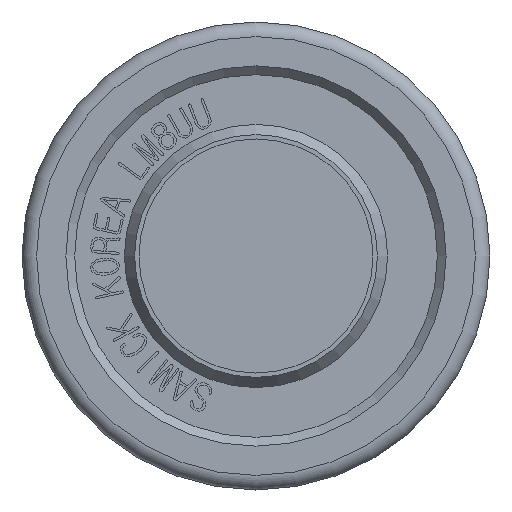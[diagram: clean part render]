
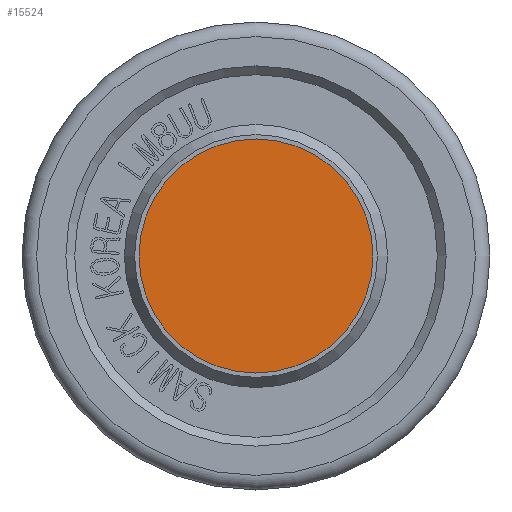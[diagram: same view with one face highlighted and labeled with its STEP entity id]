
A CAD part, front view. The second image highlights one B-rep face of the part: STEP entity #15524.
In plain terms, the highlighted planar face has unit normal (0, -1, 0).
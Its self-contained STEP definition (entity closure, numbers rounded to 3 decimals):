
#429=CIRCLE('',#15789,4.);
#1893=FACE_OUTER_BOUND('',#2752,.T.);
#2752=EDGE_LOOP('',(#14396));
#7600=VERTEX_POINT('',#28024);
#9879=EDGE_CURVE('',#7600,#7600,#429,.T.);
#14396=ORIENTED_EDGE('',*,*,#9879,.F.);
#14724=PLANE('',#15791);
#15524=ADVANCED_FACE('',(#1893),#14724,.T.);
#15789=AXIS2_PLACEMENT_3D('',#28026,#17366,#17367);
#15791=AXIS2_PLACEMENT_3D('',#28028,#17370,#17371);
#17366=DIRECTION('center_axis',(0.,1.,0.));
#17367=DIRECTION('ref_axis',(1.,0.,0.));
#17370=DIRECTION('center_axis',(0.,-1.,0.));
#17371=DIRECTION('ref_axis',(0.,0.,-1.));
#28024=CARTESIAN_POINT('',(-4.,-37.5,0.));
#28026=CARTESIAN_POINT('Origin',(0.,-37.5,0.));
#28028=CARTESIAN_POINT('Origin',(0.,-37.5,0.));
